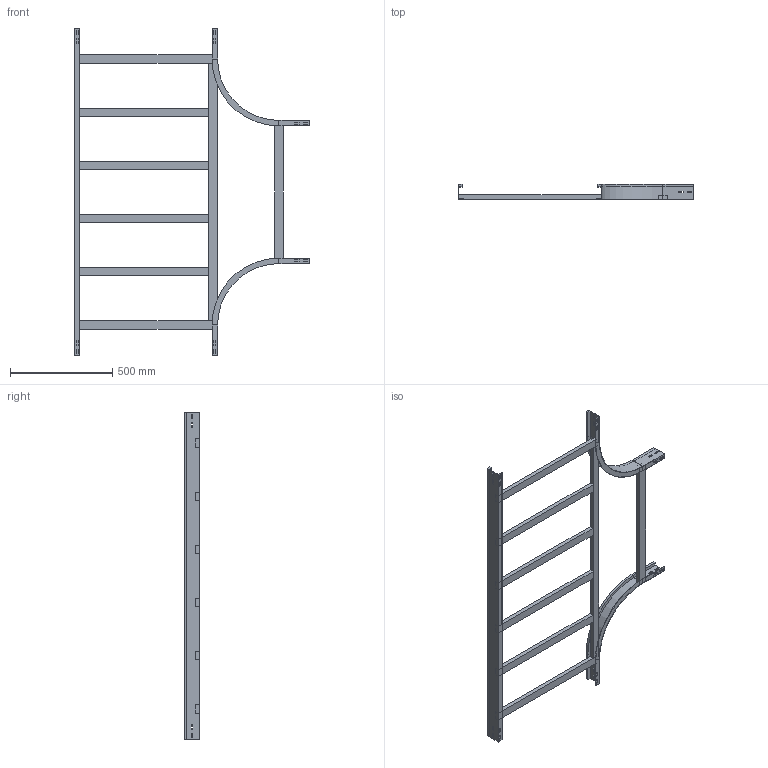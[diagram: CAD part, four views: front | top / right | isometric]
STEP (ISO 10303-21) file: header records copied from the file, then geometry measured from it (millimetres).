
FILE_DESCRIPTION (( 'STEP AP214' ), '1' );
FILE_NAME ('A2_15B3C700.step', '2025-02-21T15:53:23', ( '' ), ( '' ), 'SwSTEP 2.0', 'SolidWorks 2023', '' );
FILE_SCHEMA (( 'AUTOMOTIVE_DESIGN' ));
Length unit declared in the file: millimetre
Products named in the file (6): A2_15B3C700; TRAVERSINO_INTERMEDIO_R300+700; A2_LONGH.RETT_H75_R300+700; A2_TRAVERSINO_LONG._R300+700; A2_LONGH.INTERNO 90°_H75_R300; TRAVERSINO_700
Assembly tree (11 placements, depth 2):
  A2_15B3C700
    A2_LONGH.INTERNO 90°_H75_R300  x2
    A2_LONGH.RETT_H75_R300+700
    TRAVERSINO_700  x3
    A2_TRAVERSINO_LONG._R300+700
    TRAVERSINO_INTERMEDIO_R300+700  x4
Bounding box: 1150 x 75 x 1600 mm (x, y, z)
Volume: 6068535 mm3; surface area: 1479165.3 mm2
Topology: 11 solids, 11 shells, 206 faces, 520 edges, 336 vertices
Faces by surface type: plane 198, cylinder 8
Entity records: 3831 total; most frequent: CARTESIAN_POINT 640, ORIENTED_EDGE 616, DIRECTION 580, EDGE_CURVE 308, VECTOR 300, LINE 300, VERTEX_POINT 200, EDGE_LOOP 150
